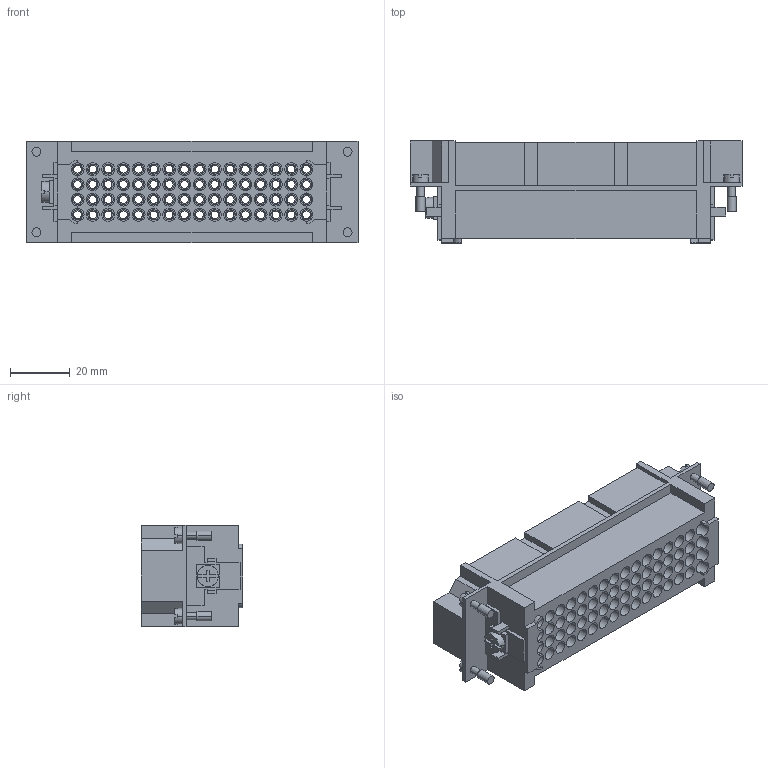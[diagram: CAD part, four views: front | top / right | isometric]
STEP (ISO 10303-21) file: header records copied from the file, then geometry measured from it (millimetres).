
FILE_DESCRIPTION (( 'STEP AP203' ), '1' );
FILE_NAME ('352228.STEP', '2025-06-26T05:27:19', ( '' ), ( '' ), 'SwSTEP 2.0', 'SolidWorks 2018', '' );
FILE_SCHEMA (( 'CONFIG_CONTROL_DESIGN' ));
Length unit declared in the file: millimetre
Products named in the file (1): 352228
Bounding box: 111 x 34.1 x 34 mm (x, y, z)
Volume: 49235.4 mm3; surface area: 36613.5 mm2
Topology: 1 solids, 1 shells, 1091 faces, 2568 edges, 1712 vertices
Faces by surface type: cylinder 612, plane 479
Entity records: 32215 total; most frequent: DIRECTION 6032, CARTESIAN_POINT 5372, ORIENTED_EDGE 5136, EDGE_CURVE 2568, AXIS2_PLACEMENT_3D 2372, VERTEX_POINT 1712, EDGE_LOOP 1452, LINE 1288
